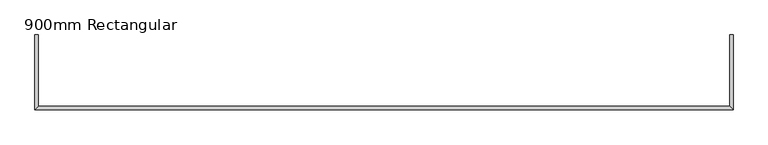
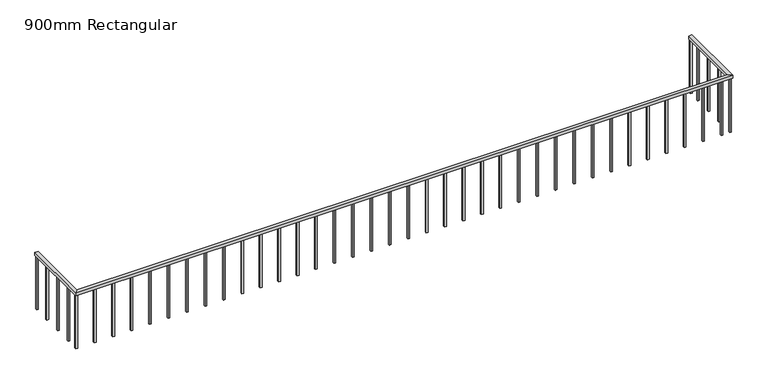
"""IFC4 building model written with IfcOpenShell, lengths in millimetres: railing geometry, 900mm Rectangular."""

from ifc_helpers import new_model, si_unit, frame, origin, place, context, project, spatial, polyline, outline, extrude, faceted_brep, source, transform, mapped, element, save


def railing_900mm_rectangular_0e713c3b(model_context):
    return source(origin(), model_context, "Body", "SolidModel", [
        faceted_brep([(2919.2181942, -4397.0090589, 11400.0), (2969.2181942, -4397.0090589, 11400.0), (2969.2181942, -4397.0090589, 11350.0), (2919.2181942, -4397.0090589, 11350.0), (12719.2181942, -4397.0090589, 11400.0), (12719.2181942, -4397.0090589, 11350.0), (12669.2181942, -4397.0090589, 11350.0), (12669.2181942, -4397.0090589, 11400.0), (2919.2181942, -5447.0090589, 11400.0), (2969.2181942, -5397.0090589, 11400.0), (2969.2181942, -5397.0090589, 11350.0), (2919.2181942, -5447.0090589, 11350.0), (12719.2181942, -5447.0090589, 11400.0), (12669.2181942, -5397.0090589, 11400.0), (12669.2181942, -5397.0090589, 11350.0), (12719.2181942, -5447.0090589, 11350.0)], [[[0, 1, 2, 3]], [[4, 5, 6, 7]], [[1, 0, 8, 9]], [[2, 1, 9, 10]], [[3, 2, 10, 11]], [[0, 3, 11, 8]], [[9, 8, 12, 13]], [[10, 9, 13, 14]], [[11, 10, 14, 15]], [[8, 11, 15, 12]], [[13, 12, 4, 7]], [[14, 13, 7, 6]], [[15, 14, 6, 5]], [[12, 15, 5, 4]]]),
        extrude(outline(polyline([(12706.7181942, -4609.5090589), (12681.7181942, -4609.5090589), (12681.7181942, -4584.5090589), (12706.7181942, -4584.5090589), (12706.7181942, -4609.5090589)])), frame((0.0, 0.0, 10500.0), z_axis=(0.0, 0.0, 1.0), x_axis=(1.0, 0.0, 0.0)), (0.0, 0.0, 1.0), 850.0),
        extrude(outline(polyline([(12706.7181942, -4884.5090589), (12681.7181942, -4884.5090589), (12681.7181942, -4859.5090589), (12706.7181942, -4859.5090589), (12706.7181942, -4884.5090589)])), frame((0.0, 0.0, 10500.0), z_axis=(0.0, 0.0, 1.0), x_axis=(1.0, 0.0, 0.0)), (0.0, 0.0, 1.0), 850.0),
        extrude(outline(polyline([(12706.7181942, -5159.5090589), (12681.7181942, -5159.5090589), (12681.7181942, -5134.5090589), (12706.7181942, -5134.5090589), (12706.7181942, -5159.5090589)])), frame((0.0, 0.0, 10500.0), z_axis=(0.0, 0.0, 1.0), x_axis=(1.0, 0.0, 0.0)), (0.0, 0.0, 1.0), 850.0),
        extrude(outline(polyline([(12556.7181942, -5434.5090589), (12556.7181942, -5409.5090589), (12581.7181942, -5409.5090589), (12581.7181942, -5434.5090589), (12556.7181942, -5434.5090589)])), frame((0.0, 0.0, 10500.0), z_axis=(0.0, 0.0, 1.0), x_axis=(1.0, 0.0, 0.0)), (0.0, 0.0, 1.0), 850.0),
        extrude(outline(polyline([(12281.7181942, -5434.5090589), (12281.7181942, -5409.5090589), (12306.7181942, -5409.5090589), (12306.7181942, -5434.5090589), (12281.7181942, -5434.5090589)])), frame((0.0, 0.0, 10500.0), z_axis=(0.0, 0.0, 1.0), x_axis=(1.0, 0.0, 0.0)), (0.0, 0.0, 1.0), 850.0),
        extrude(outline(polyline([(12006.7181942, -5434.5090589), (12006.7181942, -5409.5090589), (12031.7181942, -5409.5090589), (12031.7181942, -5434.5090589), (12006.7181942, -5434.5090589)])), frame((0.0, 0.0, 10500.0), z_axis=(0.0, 0.0, 1.0), x_axis=(1.0, 0.0, 0.0)), (0.0, 0.0, 1.0), 850.0),
        extrude(outline(polyline([(11731.7181942, -5434.5090589), (11731.7181942, -5409.5090589), (11756.7181942, -5409.5090589), (11756.7181942, -5434.5090589), (11731.7181942, -5434.5090589)])), frame((0.0, 0.0, 10500.0), z_axis=(0.0, 0.0, 1.0), x_axis=(1.0, 0.0, 0.0)), (0.0, 0.0, 1.0), 850.0),
        extrude(outline(polyline([(11456.7181942, -5434.5090589), (11456.7181942, -5409.5090589), (11481.7181942, -5409.5090589), (11481.7181942, -5434.5090589), (11456.7181942, -5434.5090589)])), frame((0.0, 0.0, 10500.0), z_axis=(0.0, 0.0, 1.0), x_axis=(1.0, 0.0, 0.0)), (0.0, 0.0, 1.0), 850.0),
        extrude(outline(polyline([(11181.7181942, -5434.5090589), (11181.7181942, -5409.5090589), (11206.7181942, -5409.5090589), (11206.7181942, -5434.5090589), (11181.7181942, -5434.5090589)])), frame((0.0, 0.0, 10500.0), z_axis=(0.0, 0.0, 1.0), x_axis=(1.0, 0.0, 0.0)), (0.0, 0.0, 1.0), 850.0),
        extrude(outline(polyline([(10906.7181942, -5434.5090589), (10906.7181942, -5409.5090589), (10931.7181942, -5409.5090589), (10931.7181942, -5434.5090589), (10906.7181942, -5434.5090589)])), frame((0.0, 0.0, 10500.0), z_axis=(0.0, 0.0, 1.0), x_axis=(1.0, 0.0, 0.0)), (0.0, 0.0, 1.0), 850.0),
        extrude(outline(polyline([(10631.7181942, -5434.5090589), (10631.7181942, -5409.5090589), (10656.7181942, -5409.5090589), (10656.7181942, -5434.5090589), (10631.7181942, -5434.5090589)])), frame((0.0, 0.0, 10500.0), z_axis=(0.0, 0.0, 1.0), x_axis=(1.0, 0.0, 0.0)), (0.0, 0.0, 1.0), 850.0),
        extrude(outline(polyline([(10356.7181942, -5434.5090589), (10356.7181942, -5409.5090589), (10381.7181942, -5409.5090589), (10381.7181942, -5434.5090589), (10356.7181942, -5434.5090589)])), frame((0.0, 0.0, 10500.0), z_axis=(0.0, 0.0, 1.0), x_axis=(1.0, 0.0, 0.0)), (0.0, 0.0, 1.0), 850.0),
        extrude(outline(polyline([(10081.7181942, -5434.5090589), (10081.7181942, -5409.5090589), (10106.7181942, -5409.5090589), (10106.7181942, -5434.5090589), (10081.7181942, -5434.5090589)])), frame((0.0, 0.0, 10500.0), z_axis=(0.0, 0.0, 1.0), x_axis=(1.0, 0.0, 0.0)), (0.0, 0.0, 1.0), 850.0),
        extrude(outline(polyline([(9806.7181942, -5434.5090589), (9806.7181942, -5409.5090589), (9831.7181942, -5409.5090589), (9831.7181942, -5434.5090589), (9806.7181942, -5434.5090589)])), frame((0.0, 0.0, 10500.0), z_axis=(0.0, 0.0, 1.0), x_axis=(1.0, 0.0, 0.0)), (0.0, 0.0, 1.0), 850.0),
        extrude(outline(polyline([(9531.7181942, -5434.5090589), (9531.7181942, -5409.5090589), (9556.7181942, -5409.5090589), (9556.7181942, -5434.5090589), (9531.7181942, -5434.5090589)])), frame((0.0, 0.0, 10500.0), z_axis=(0.0, 0.0, 1.0), x_axis=(1.0, 0.0, 0.0)), (0.0, 0.0, 1.0), 850.0),
        extrude(outline(polyline([(9256.7181942, -5434.5090589), (9256.7181942, -5409.5090589), (9281.7181942, -5409.5090589), (9281.7181942, -5434.5090589), (9256.7181942, -5434.5090589)])), frame((0.0, 0.0, 10500.0), z_axis=(0.0, 0.0, 1.0), x_axis=(1.0, 0.0, 0.0)), (0.0, 0.0, 1.0), 850.0),
        extrude(outline(polyline([(8981.7181942, -5434.5090589), (8981.7181942, -5409.5090589), (9006.7181942, -5409.5090589), (9006.7181942, -5434.5090589), (8981.7181942, -5434.5090589)])), frame((0.0, 0.0, 10500.0), z_axis=(0.0, 0.0, 1.0), x_axis=(1.0, 0.0, 0.0)), (0.0, 0.0, 1.0), 850.0),
        extrude(outline(polyline([(8706.7181942, -5434.5090589), (8706.7181942, -5409.5090589), (8731.7181942, -5409.5090589), (8731.7181942, -5434.5090589), (8706.7181942, -5434.5090589)])), frame((0.0, 0.0, 10500.0), z_axis=(0.0, 0.0, 1.0), x_axis=(1.0, 0.0, 0.0)), (0.0, 0.0, 1.0), 850.0),
        extrude(outline(polyline([(8431.7181942, -5434.5090589), (8431.7181942, -5409.5090589), (8456.7181942, -5409.5090589), (8456.7181942, -5434.5090589), (8431.7181942, -5434.5090589)])), frame((0.0, 0.0, 10500.0), z_axis=(0.0, 0.0, 1.0), x_axis=(1.0, 0.0, 0.0)), (0.0, 0.0, 1.0), 850.0),
        extrude(outline(polyline([(8156.7181942, -5434.5090589), (8156.7181942, -5409.5090589), (8181.7181942, -5409.5090589), (8181.7181942, -5434.5090589), (8156.7181942, -5434.5090589)])), frame((0.0, 0.0, 10500.0), z_axis=(0.0, 0.0, 1.0), x_axis=(1.0, 0.0, 0.0)), (0.0, 0.0, 1.0), 850.0),
        extrude(outline(polyline([(7881.7181942, -5434.5090589), (7881.7181942, -5409.5090589), (7906.7181942, -5409.5090589), (7906.7181942, -5434.5090589), (7881.7181942, -5434.5090589)])), frame((0.0, 0.0, 10500.0), z_axis=(0.0, 0.0, 1.0), x_axis=(1.0, 0.0, 0.0)), (0.0, 0.0, 1.0), 850.0),
        extrude(outline(polyline([(7606.7181942, -5434.5090589), (7606.7181942, -5409.5090589), (7631.7181942, -5409.5090589), (7631.7181942, -5434.5090589), (7606.7181942, -5434.5090589)])), frame((0.0, 0.0, 10500.0), z_axis=(0.0, 0.0, 1.0), x_axis=(1.0, 0.0, 0.0)), (0.0, 0.0, 1.0), 850.0),
        extrude(outline(polyline([(7331.7181942, -5434.5090589), (7331.7181942, -5409.5090589), (7356.7181942, -5409.5090589), (7356.7181942, -5434.5090589), (7331.7181942, -5434.5090589)])), frame((0.0, 0.0, 10500.0), z_axis=(0.0, 0.0, 1.0), x_axis=(1.0, 0.0, 0.0)), (0.0, 0.0, 1.0), 850.0),
        extrude(outline(polyline([(7056.7181942, -5434.5090589), (7056.7181942, -5409.5090589), (7081.7181942, -5409.5090589), (7081.7181942, -5434.5090589), (7056.7181942, -5434.5090589)])), frame((0.0, 0.0, 10500.0), z_axis=(0.0, 0.0, 1.0), x_axis=(1.0, 0.0, 0.0)), (0.0, 0.0, 1.0), 850.0),
        extrude(outline(polyline([(6781.7181942, -5434.5090589), (6781.7181942, -5409.5090589), (6806.7181942, -5409.5090589), (6806.7181942, -5434.5090589), (6781.7181942, -5434.5090589)])), frame((0.0, 0.0, 10500.0), z_axis=(0.0, 0.0, 1.0), x_axis=(1.0, 0.0, 0.0)), (0.0, 0.0, 1.0), 850.0),
        extrude(outline(polyline([(6506.7181942, -5434.5090589), (6506.7181942, -5409.5090589), (6531.7181942, -5409.5090589), (6531.7181942, -5434.5090589), (6506.7181942, -5434.5090589)])), frame((0.0, 0.0, 10500.0), z_axis=(0.0, 0.0, 1.0), x_axis=(1.0, 0.0, 0.0)), (0.0, 0.0, 1.0), 850.0),
        extrude(outline(polyline([(6231.7181942, -5434.5090589), (6231.7181942, -5409.5090589), (6256.7181942, -5409.5090589), (6256.7181942, -5434.5090589), (6231.7181942, -5434.5090589)])), frame((0.0, 0.0, 10500.0), z_axis=(0.0, 0.0, 1.0), x_axis=(1.0, 0.0, 0.0)), (0.0, 0.0, 1.0), 850.0),
        extrude(outline(polyline([(5956.7181942, -5434.5090589), (5956.7181942, -5409.5090589), (5981.7181942, -5409.5090589), (5981.7181942, -5434.5090589), (5956.7181942, -5434.5090589)])), frame((0.0, 0.0, 10500.0), z_axis=(0.0, 0.0, 1.0), x_axis=(1.0, 0.0, 0.0)), (0.0, 0.0, 1.0), 850.0),
        extrude(outline(polyline([(5681.7181942, -5434.5090589), (5681.7181942, -5409.5090589), (5706.7181942, -5409.5090589), (5706.7181942, -5434.5090589), (5681.7181942, -5434.5090589)])), frame((0.0, 0.0, 10500.0), z_axis=(0.0, 0.0, 1.0), x_axis=(1.0, 0.0, 0.0)), (0.0, 0.0, 1.0), 850.0),
        extrude(outline(polyline([(5406.7181942, -5434.5090589), (5406.7181942, -5409.5090589), (5431.7181942, -5409.5090589), (5431.7181942, -5434.5090589), (5406.7181942, -5434.5090589)])), frame((0.0, 0.0, 10500.0), z_axis=(0.0, 0.0, 1.0), x_axis=(1.0, 0.0, 0.0)), (0.0, 0.0, 1.0), 850.0),
        extrude(outline(polyline([(5131.7181942, -5434.5090589), (5131.7181942, -5409.5090589), (5156.7181942, -5409.5090589), (5156.7181942, -5434.5090589), (5131.7181942, -5434.5090589)])), frame((0.0, 0.0, 10500.0), z_axis=(0.0, 0.0, 1.0), x_axis=(1.0, 0.0, 0.0)), (0.0, 0.0, 1.0), 850.0),
        extrude(outline(polyline([(4856.7181942, -5434.5090589), (4856.7181942, -5409.5090589), (4881.7181942, -5409.5090589), (4881.7181942, -5434.5090589), (4856.7181942, -5434.5090589)])), frame((0.0, 0.0, 10500.0), z_axis=(0.0, 0.0, 1.0), x_axis=(1.0, 0.0, 0.0)), (0.0, 0.0, 1.0), 850.0),
        extrude(outline(polyline([(4581.7181942, -5434.5090589), (4581.7181942, -5409.5090589), (4606.7181942, -5409.5090589), (4606.7181942, -5434.5090589), (4581.7181942, -5434.5090589)])), frame((0.0, 0.0, 10500.0), z_axis=(0.0, 0.0, 1.0), x_axis=(1.0, 0.0, 0.0)), (0.0, 0.0, 1.0), 850.0),
        extrude(outline(polyline([(4306.7181942, -5434.5090589), (4306.7181942, -5409.5090589), (4331.7181942, -5409.5090589), (4331.7181942, -5434.5090589), (4306.7181942, -5434.5090589)])), frame((0.0, 0.0, 10500.0), z_axis=(0.0, 0.0, 1.0), x_axis=(1.0, 0.0, 0.0)), (0.0, 0.0, 1.0), 850.0),
        extrude(outline(polyline([(4031.7181942, -5434.5090589), (4031.7181942, -5409.5090589), (4056.7181942, -5409.5090589), (4056.7181942, -5434.5090589), (4031.7181942, -5434.5090589)])), frame((0.0, 0.0, 10500.0), z_axis=(0.0, 0.0, 1.0), x_axis=(1.0, 0.0, 0.0)), (0.0, 0.0, 1.0), 850.0),
        extrude(outline(polyline([(3756.7181942, -5434.5090589), (3756.7181942, -5409.5090589), (3781.7181942, -5409.5090589), (3781.7181942, -5434.5090589), (3756.7181942, -5434.5090589)])), frame((0.0, 0.0, 10500.0), z_axis=(0.0, 0.0, 1.0), x_axis=(1.0, 0.0, 0.0)), (0.0, 0.0, 1.0), 850.0),
        extrude(outline(polyline([(3481.7181942, -5434.5090589), (3481.7181942, -5409.5090589), (3506.7181942, -5409.5090589), (3506.7181942, -5434.5090589), (3481.7181942, -5434.5090589)])), frame((0.0, 0.0, 10500.0), z_axis=(0.0, 0.0, 1.0), x_axis=(1.0, 0.0, 0.0)), (0.0, 0.0, 1.0), 850.0),
        extrude(outline(polyline([(3206.7181942, -5434.5090589), (3206.7181942, -5409.5090589), (3231.7181942, -5409.5090589), (3231.7181942, -5434.5090589), (3206.7181942, -5434.5090589)])), frame((0.0, 0.0, 10500.0), z_axis=(0.0, 0.0, 1.0), x_axis=(1.0, 0.0, 0.0)), (0.0, 0.0, 1.0), 850.0),
        extrude(outline(polyline([(2931.7181942, -5209.5090589), (2956.7181942, -5209.5090589), (2956.7181942, -5234.5090589), (2931.7181942, -5234.5090589), (2931.7181942, -5209.5090589)])), frame((0.0, 0.0, 10500.0), z_axis=(0.0, 0.0, 1.0), x_axis=(1.0, 0.0, 0.0)), (0.0, 0.0, 1.0), 850.0),
        extrude(outline(polyline([(2931.7181942, -4934.5090589), (2956.7181942, -4934.5090589), (2956.7181942, -4959.5090589), (2931.7181942, -4959.5090589), (2931.7181942, -4934.5090589)])), frame((0.0, 0.0, 10500.0), z_axis=(0.0, 0.0, 1.0), x_axis=(1.0, 0.0, 0.0)), (0.0, 0.0, 1.0), 850.0),
        extrude(outline(polyline([(2931.7181942, -4659.5090589), (2956.7181942, -4659.5090589), (2956.7181942, -4684.5090589), (2931.7181942, -4684.5090589), (2931.7181942, -4659.5090589)])), frame((0.0, 0.0, 10500.0), z_axis=(0.0, 0.0, 1.0), x_axis=(1.0, 0.0, 0.0)), (0.0, 0.0, 1.0), 850.0),
        extrude(outline(polyline([(12681.7181942, -5434.5090589), (12681.7181942, -5409.5090589), (12706.7181942, -5409.5090589), (12706.7181942, -5434.5090589), (12681.7181942, -5434.5090589)])), frame((0.0, 0.0, 10500.0), z_axis=(0.0, 0.0, 1.0), x_axis=(1.0, 0.0, 0.0)), (0.0, 0.0, 1.0), 850.0),
        extrude(outline(polyline([(2931.7181942, -5409.5090589), (2956.7181942, -5409.5090589), (2956.7181942, -5434.5090589), (2931.7181942, -5434.5090589), (2931.7181942, -5409.5090589)])), frame((0.0, 0.0, 10500.0), z_axis=(0.0, 0.0, 1.0), x_axis=(1.0, 0.0, 0.0)), (0.0, 0.0, 1.0), 850.0),
        extrude(outline(polyline([(12706.7181942, -4422.0090589), (12681.7181942, -4422.0090589), (12681.7181942, -4397.0090589), (12706.7181942, -4397.0090589), (12706.7181942, -4422.0090589)])), frame((0.0, 0.0, 10500.0), z_axis=(0.0, 0.0, 1.0), x_axis=(1.0, 0.0, 0.0)), (0.0, 0.0, 1.0), 850.0),
        extrude(outline(polyline([(2931.7181942, -4397.0090589), (2956.7181942, -4397.0090589), (2956.7181942, -4422.0090589), (2931.7181942, -4422.0090589), (2931.7181942, -4397.0090589)])), frame((0.0, 0.0, 10500.0), z_axis=(0.0, 0.0, 1.0), x_axis=(1.0, 0.0, 0.0)), (0.0, 0.0, 1.0), 850.0),
    ])


if __name__ == "__main__":
    model = new_model("IFC4")
    model_context = context("Model", 3, world=origin())
    ifc_project = project(units=[si_unit("LENGTHUNIT", "METRE", prefix="MILLI")], contexts=[model_context])
    site = spatial("IfcSite", under=ifc_project)
    building = spatial("IfcBuilding", under=site)
    placement = place(None, origin())
    railing_900mm_rectangular_shape = railing_900mm_rectangular_0e713c3b(model_context)
    element("IfcRailing", 1, ObjectType="900mm Rectangular", at=placement, inside=building, context=model_context, shape_type="MappedRepresentation", body=[
        mapped(railing_900mm_rectangular_shape, transform((0.0, 0.0, 0.0), x_axis=(1.0, 0.0, 0.0), y_axis=(0.0, 1.0, 0.0), z_axis=(0.0, 0.0, 1.0))),
    ])
    save(model, "model.ifc")
